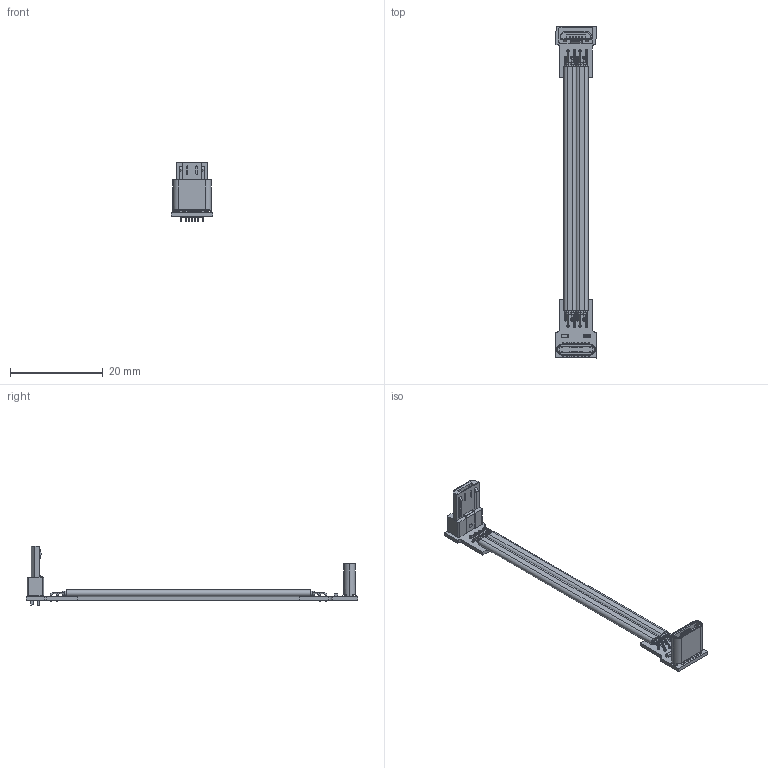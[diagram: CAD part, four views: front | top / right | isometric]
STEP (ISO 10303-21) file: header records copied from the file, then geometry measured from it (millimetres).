
FILE_DESCRIPTION(('Open CASCADE Model'),'2;1');
FILE_NAME('Open CASCADE Shape Model','2022-04-28T01:36:23',('Author'),( 'Open CASCADE'),'Open CASCADE STEP processor 6.8','Open CASCADE 6.8' ,'Unknown');
FILE_SCHEMA(('AUTOMOTIVE_DESIGN { 1 0 10303 214 1 1 1 1 }'));
Length unit declared in the file: millimetre
Products named in the file (74): PCB; Board; Open CASCADE STEP translator 6.8 1.1.1; Designator12; T2D-4_20211026; Open CASCADE STEP translator 6.8 1.3; 0603_RES; Capsule; Encapsulation; TopCover; Open CASCADE STEP translator 6.8 1.4; C0603_060; gDesignator22; usb_2.0_20211221; Free-Models; 8_pin_20211216_(2)
Assembly tree (74 placements, depth 4):
  PCB
    Board
      Open CASCADE STEP translator 6.8 1.1.1
    Designator12
      T2D-4_20211026
      T2D-4_20211026
      T2D-4_20211026
      T2D-4_20211026
      T2D-4_20211026
      T2D-4_20211026
      T2D-4_20211026
      T2D-4_20211026
      T2D-4_20211026
      T2D-4_20211026
      T2D-4_20211026
      T2D-4_20211026
      T2D-4_20211026
      T2D-4_20211026
      T2D-4_20211026
      T2D-4_20211026
      T2D-4_20211026
      T2D-4_20211026
      T2D-4_20211026
      T2D-4_20211026
      T2D-4_20211026
      T2D-4_20211026
      T2D-4_20211026
      T2D-4_20211026
      T2D-4_20211026
      T2D-4_20211026
      T2D-4_20211026
      T2D-4_20211026
      T2D-4_20211026
      T2D-4_20211026
      T2D-4_20211026
      T2D-4_20211026
      T2D-4_20211026
      T2D-4_20211026
      T2D-4_20211026
      T2D-4_20211026
      T2D-4_20211026
      T2D-4_20211026
      T2D-4_20211026
      T2D-4_20211026
      T2D-4_20211026
      T2D-4_20211026
      T2D-4_20211026
      T2D-4_20211026
      T2D-4_20211026
      T2D-4_20211026
      T2D-4_20211026
      T2D-4_20211026
      T2D-4_20211026
      T2D-4_20211026
      T2D-4_20211026
      T2D-4_20211026
      T2D-4_20211026
      T2D-4_20211026
      T2D-4_20211026
      T2D-4_20211026
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Bounding box: 9.01 x 71.44 x 12.88 mm (x, y, z)
Volume: 684.6 mm3; surface area: 4684.8 mm2
Topology: 102 solids, 102 shells, 1199 faces, 2881 edges, 1893 vertices
Faces by surface type: plane 773, cylinder 310, bspline 62, torus 38, extrusion 8, sphere 8
Full cylindrical faces by diameter (mm): 0.55 x16, 0.7 x2
Entity records: 43227 total; most frequent: CARTESIAN_POINT 7412, DIRECTION 5786, ORIENTED_EDGE 5686, EDGE_CURVE 2843, VECTOR 2012, LINE 2004, AXIS2_PLACEMENT_3D 1887, VERTEX_POINT 1873
